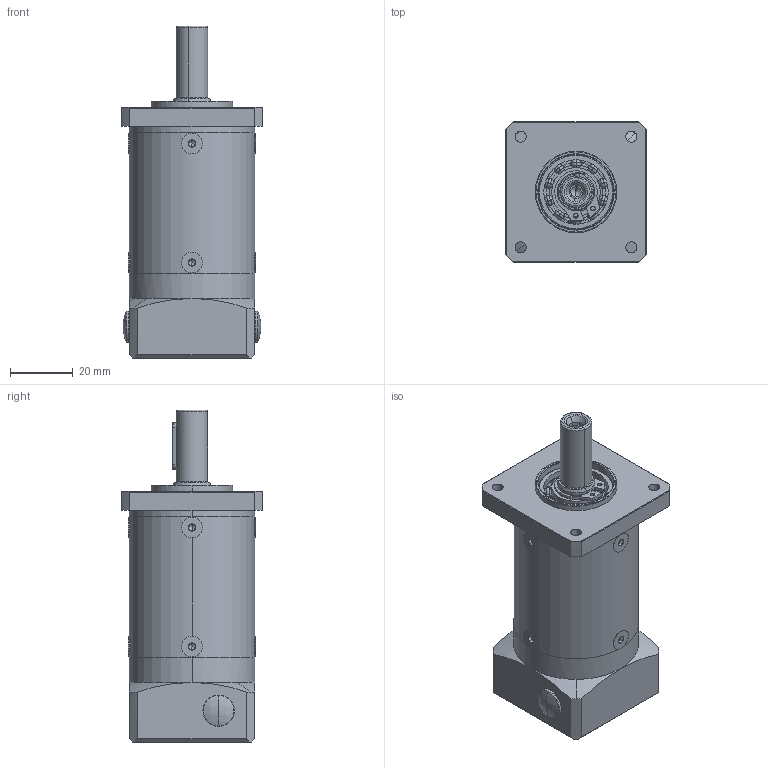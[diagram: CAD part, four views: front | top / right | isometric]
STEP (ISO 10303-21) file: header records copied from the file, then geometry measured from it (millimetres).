
FILE_DESCRIPTION (( 'STEP AP203' ), '1' );
FILE_NAME ('PF40L2-i-P2-S2-8-25-30-45-M3.step', '2020-03-23T09:08:54', ( '个人用户' ), ( '微软中国' ), 'SwSTEP 2.0', 'SolidWorks 2018', '' );
FILE_SCHEMA (( 'CONFIG_CONTROL_DESIGN' ));
Length unit declared in the file: millimetre
Products named in the file (1): PF40L2-i-P2-S2-8-25-30-45-M3
Bounding box: 45 x 45 x 106 mm (x, y, z)
Volume: 76258 mm3; surface area: 52244.1 mm2
Topology: 32 solids, 32 shells, 1283 faces, 3429 edges, 2162 vertices
Faces by surface type: cylinder 361, plane 269, sphere 250, cone 211, torus 188, bspline 4
Entity records: 48812 total; most frequent: CARTESIAN_POINT 17160, ORIENTED_EDGE 6794, DIRECTION 6598, EDGE_CURVE 3397, AXIS2_PLACEMENT_3D 2944, VERTEX_POINT 2162, CIRCLE 1664, EDGE_LOOP 1477
